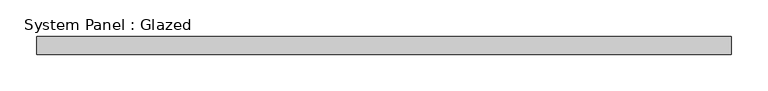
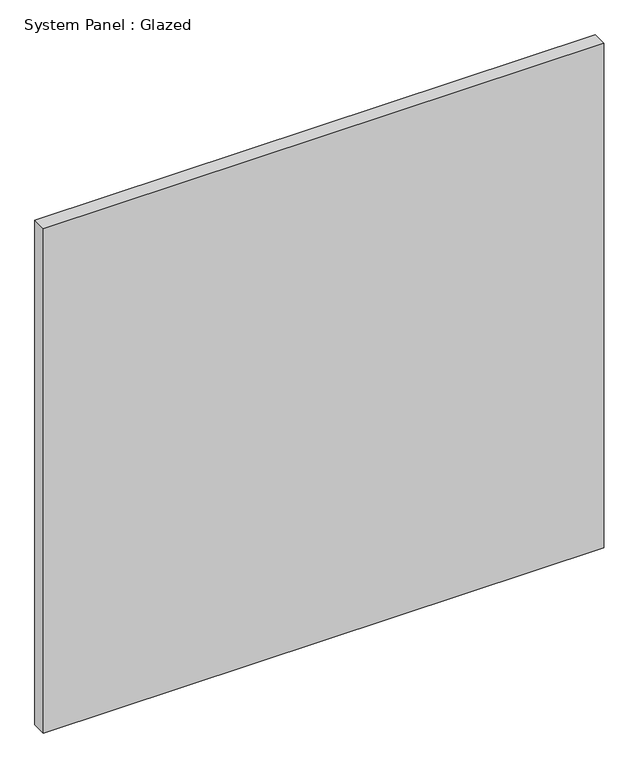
"""IFC4 building model written with IfcOpenShell, lengths in millimetres: plate geometry, System Panel : Glazed."""

from ifc_helpers import new_model, si_unit, origin, origin_with_axes, place, context, project, spatial, polyline, outline, extrude, source, transform, mapped, element, save


def system_panel_glazed_708a5042(model_context):
    return source(origin(), model_context, "Body", "SweptSolid", [
        extrude(outline(polyline([(475.8881596, 24.5), (-475.8881596, 24.5), (-475.8881596, 49.5), (475.8881596, 49.5), (475.8881596, 24.5)])), origin_with_axes(), (0.0, 0.0, 1.0), 905.5153381),
    ])


if __name__ == "__main__":
    model = new_model("IFC4")
    model_context = context("Model", 3, world=origin())
    ifc_project = project(units=[si_unit("LENGTHUNIT", "METRE", prefix="MILLI")], contexts=[model_context])
    site = spatial("IfcSite", under=ifc_project)
    building = spatial("IfcBuilding", under=site)
    placement = place(None, origin())
    system_panel_glazed_shape = system_panel_glazed_708a5042(model_context)
    element("IfcPlate", 1, ObjectType="System Panel : Glazed", at=placement, inside=building, context=model_context, shape_type="MappedRepresentation", body=[
        mapped(system_panel_glazed_shape, transform((0.0, 0.0, 0.0), x_axis=(1.0, 0.0, 0.0), y_axis=(0.0, 1.0, 0.0), z_axis=(0.0, 0.0, 1.0))),
    ])
    save(model, "model.ifc")
